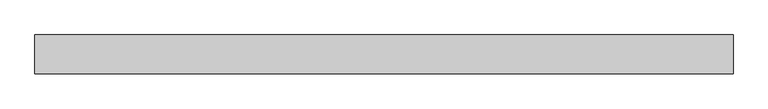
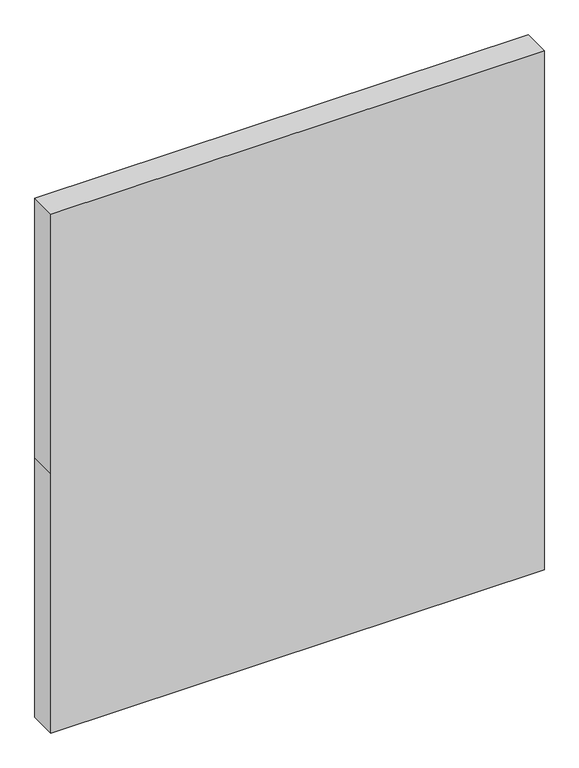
"""IFC4 building model written with IfcOpenShell, lengths in millimetres: plate geometry, Пустая системная панель : Пустая системная панель."""

from ifc_helpers import new_model, si_unit, frame, origin, place, context, project, spatial, polyline, outline, extrude, source, transform, mapped, element, save


def plate_e3ef1461(model_context):
    return source(origin(), model_context, "Body", "SweptSolid", [
        extrude(outline(polyline([(0.0, -900.0), (0.0, 900.0), (1000.0, 900.0), (2000.0, 900.0), (2000.0, -900.0), (1000.0, -900.0), (0.0, -900.0)])), frame((0.0, -50.0, 0.0), z_axis=(0.0, 1.0, 0.0), x_axis=(0.0, 0.0, 1.0)), (0.0, 0.0, 1.0), 100.0),
    ])


if __name__ == "__main__":
    model = new_model("IFC4")
    model_context = context("Model", 3, world=origin())
    ifc_project = project(units=[si_unit("LENGTHUNIT", "METRE", prefix="MILLI")], contexts=[model_context])
    site = spatial("IfcSite", under=ifc_project)
    building = spatial("IfcBuilding", under=site)
    placement = place(None, origin())
    plate_shape = plate_e3ef1461(model_context)
    element("IfcPlate", 1, ObjectType="Пустая системная панель : Пустая системная панель", at=placement, inside=building, context=model_context, shape_type="MappedRepresentation", body=[
        mapped(plate_shape, transform((0.0, 0.0, 0.0), x_axis=(1.0, 0.0, 0.0), y_axis=(0.0, 1.0, 0.0), z_axis=(0.0, 0.0, 1.0))),
    ])
    save(model, "model.ifc")
